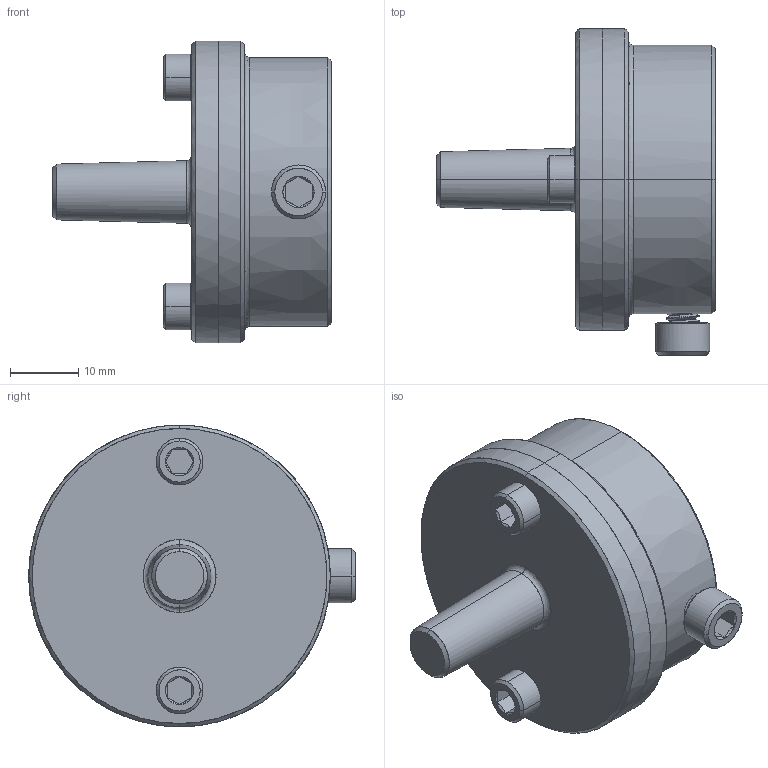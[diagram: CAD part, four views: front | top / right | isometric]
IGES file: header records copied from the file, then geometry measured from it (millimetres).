
Start section: Comment
Global section: file name: 1206.igs; native system:  By Spatial Corp.; preprocessor: XPlus PS/IGES 3.0; author: sherline; organization: Title; date: 20210930.193056; units: inch
Bounding box: 40.77 x 47.82 x 44.2 mm (x, y, z)
Surface area: 13400.3 mm2 (no closed solid volume)
Topology: 0 solids, 0 shells, 335 faces, 2024 edges, 2020 vertices
Faces by surface type: revolution 288, extrusion 41, bspline 6
